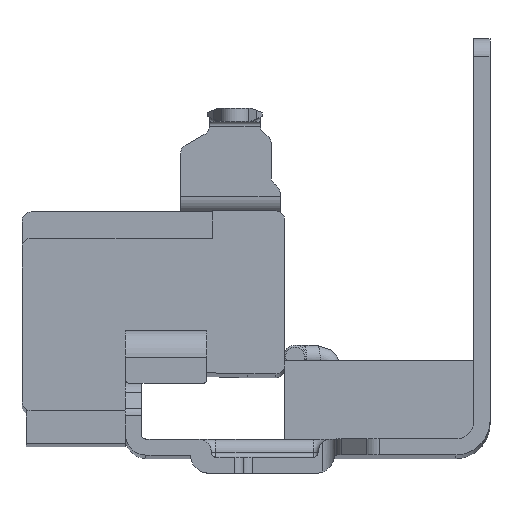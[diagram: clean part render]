
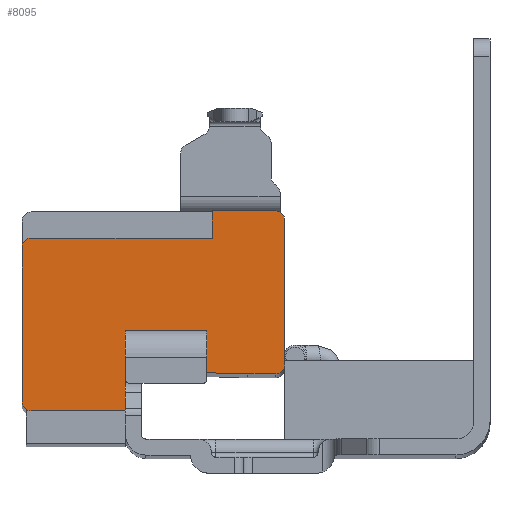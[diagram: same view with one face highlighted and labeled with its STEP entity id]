
A CAD part, top view. The second image highlights one B-rep face of the part: STEP entity #8095.
In plain terms, the highlighted planar face has unit normal (0, 0, 1).
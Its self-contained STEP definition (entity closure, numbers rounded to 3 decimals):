
#72 = VECTOR ( 'NONE', #6047, 1000. ) ;
#322 = ORIENTED_EDGE ( 'NONE', *, *, #4139, .F. ) ;
#343 = VECTOR ( 'NONE', #1663, 1000. ) ;
#417 = DIRECTION ( 'NONE',  ( 0., 0., -1. ) ) ;
#449 = EDGE_CURVE ( 'NONE', #8818, #9963, #9604, .T. ) ;
#459 = ORIENTED_EDGE ( 'NONE', *, *, #449, .T. ) ;
#493 = EDGE_CURVE ( 'NONE', #2171, #1219, #9324, .T. ) ;
#697 = LINE ( 'NONE', #4200, #9960 ) ;
#1143 = AXIS2_PLACEMENT_3D ( 'NONE', #9883, #4663, #10749 ) ;
#1203 = DIRECTION ( 'NONE',  ( -1., 0., 0. ) ) ;
#1219 = VERTEX_POINT ( 'NONE', #3538 ) ;
#1273 = CARTESIAN_POINT ( 'NONE',  ( -59.43, -14.951, -18.7 ) ) ;
#1330 = CARTESIAN_POINT ( 'NONE',  ( -59.43, -12.102, -18.7 ) ) ;
#1413 = CIRCLE ( 'NONE', #1143, 0.97 ) ;
#1463 = CARTESIAN_POINT ( 'NONE',  ( -41.412, -15.412, -18.7 ) ) ;
#1501 = ORIENTED_EDGE ( 'NONE', *, *, #5215, .F. ) ;
#1663 = DIRECTION ( 'NONE',  ( 0., -1., 0. ) ) ;
#1665 = EDGE_CURVE ( 'NONE', #5569, #6443, #5791, .T. ) ;
#1807 = PLANE ( 'NONE',  #8982 ) ;
#1852 = DIRECTION ( 'NONE',  ( 0., -1., 0. ) ) ;
#1927 = LINE ( 'NONE', #5752, #8306 ) ;
#1955 = CARTESIAN_POINT ( 'NONE',  ( -52.2, -12.102, -18.7 ) ) ;
#1985 = VERTEX_POINT ( 'NONE', #6669 ) ;
#2008 = ORIENTED_EDGE ( 'NONE', *, *, #2759, .T. ) ;
#2079 = VECTOR ( 'NONE', #3956, 1000. ) ;
#2093 = EDGE_CURVE ( 'NONE', #10703, #7217, #2333, .T. ) ;
#2128 = CARTESIAN_POINT ( 'NONE',  ( -44.6, 2.748, -18.7 ) ) ;
#2171 = VERTEX_POINT ( 'NONE', #1955 ) ;
#2251 = VERTEX_POINT ( 'NONE', #2990 ) ;
#2333 = LINE ( 'NONE', #5307, #11282 ) ;
#2341 = DIRECTION ( 'NONE',  ( -1., 0.026, 0. ) ) ;
#2350 = VECTOR ( 'NONE', #5396, 1000. ) ;
#2431 = ORIENTED_EDGE ( 'NONE', *, *, #493, .F. ) ;
#2523 = CIRCLE ( 'NONE', #5523, 1. ) ;
#2604 = EDGE_CURVE ( 'NONE', #7217, #9635, #5332, .T. ) ;
#2678 = DIRECTION ( 'NONE',  ( -1., 0., 0. ) ) ;
#2680 = CARTESIAN_POINT ( 'NONE',  ( -43.6, 1.748, -18.7 ) ) ;
#2759 = EDGE_CURVE ( 'NONE', #2171, #8818, #1927, .T. ) ;
#2775 = LINE ( 'NONE', #4478, #4530 ) ;
#2942 = DIRECTION ( 'NONE',  ( 0., 0., -1. ) ) ;
#2990 = CARTESIAN_POINT ( 'NONE',  ( -61.2, -19.352, -18.7 ) ) ;
#3094 = CARTESIAN_POINT ( 'NONE',  ( -72.63, -13.752, -18.7 ) ) ;
#3148 = LINE ( 'NONE', #1463, #6673 ) ;
#3293 = CARTESIAN_POINT ( 'NONE',  ( -51.6, -0.252, -18.7 ) ) ;
#3468 = AXIS2_PLACEMENT_3D ( 'NONE', #8131, #2942, #8996 ) ;
#3530 = EDGE_CURVE ( 'NONE', #6919, #9963, #3148, .T. ) ;
#3538 = CARTESIAN_POINT ( 'NONE',  ( -52.2, -10.442, -18.7 ) ) ;
#3595 = EDGE_CURVE ( 'NONE', #7287, #4161, #6411, .T. ) ;
#3644 = CARTESIAN_POINT ( 'NONE',  ( -51.6, -0.252, -18.7 ) ) ;
#3686 = DIRECTION ( 'NONE',  ( 0., 0., -1. ) ) ;
#3918 = ORIENTED_EDGE ( 'NONE', *, *, #6598, .F. ) ;
#3956 = DIRECTION ( 'NONE',  ( 0., 1., 0. ) ) ;
#3990 = EDGE_CURVE ( 'NONE', #7409, #10703, #2523, .T. ) ;
#4018 = LINE ( 'NONE', #6811, #4282 ) ;
#4086 = ORIENTED_EDGE ( 'NONE', *, *, #3530, .F. ) ;
#4092 = VECTOR ( 'NONE', #8471, 1000. ) ;
#4110 = LINE ( 'NONE', #7279, #10492 ) ;
#4139 = EDGE_CURVE ( 'NONE', #2251, #5569, #4018, .T. ) ;
#4161 = VERTEX_POINT ( 'NONE', #6850 ) ;
#4192 = DIRECTION ( 'NONE',  ( -1., 0., 0. ) ) ;
#4200 = CARTESIAN_POINT ( 'NONE',  ( -41.8, -0.252, -18.7 ) ) ;
#4222 = AXIS2_PLACEMENT_3D ( 'NONE', #8882, #3686, #9767 ) ;
#4282 = VECTOR ( 'NONE', #4192, 1000. ) ;
#4283 = FACE_OUTER_BOUND ( 'NONE', #7289, .T. ) ;
#4357 = ORIENTED_EDGE ( 'NONE', *, *, #5084, .T. ) ;
#4440 = ORIENTED_EDGE ( 'NONE', *, *, #6483, .F. ) ;
#4471 = ORIENTED_EDGE ( 'NONE', *, *, #2093, .F. ) ;
#4478 = CARTESIAN_POINT ( 'NONE',  ( -61.2, -1.252, -18.7 ) ) ;
#4530 = VECTOR ( 'NONE', #9690, 1000. ) ;
#4641 = LINE ( 'NONE', #9605, #2350 ) ;
#4663 = DIRECTION ( 'NONE',  ( 0., 0., -1. ) ) ;
#4871 = DIRECTION ( 'NONE',  ( -1., 0., 0. ) ) ;
#5084 = EDGE_CURVE ( 'NONE', #2251, #1985, #2775, .T. ) ;
#5215 = EDGE_CURVE ( 'NONE', #8121, #8282, #1413, .T. ) ;
#5244 = CARTESIAN_POINT ( 'NONE',  ( -72.63, -18.352, -18.7 ) ) ;
#5307 = CARTESIAN_POINT ( 'NONE',  ( -43.6, -6.222, -18.7 ) ) ;
#5324 = CARTESIAN_POINT ( 'NONE',  ( -43.6, -14.252, -18.7 ) ) ;
#5332 = CIRCLE ( 'NONE', #3468, 1. ) ;
#5396 = DIRECTION ( 'NONE',  ( 1., 0., 0. ) ) ;
#5523 = AXIS2_PLACEMENT_3D ( 'NONE', #5654, #417, #6530 ) ;
#5569 = VERTEX_POINT ( 'NONE', #9040 ) ;
#5654 = CARTESIAN_POINT ( 'NONE',  ( -44.6, 1.748, -18.7 ) ) ;
#5684 = ORIENTED_EDGE ( 'NONE', *, *, #1665, .F. ) ;
#5752 = CARTESIAN_POINT ( 'NONE',  ( -52.2, -12.102, -18.7 ) ) ;
#5791 = CIRCLE ( 'NONE', #4222, 1. ) ;
#6047 = DIRECTION ( 'NONE',  ( 0., 1., 0. ) ) ;
#6075 = VECTOR ( 'NONE', #9705, 1000. ) ;
#6155 = CARTESIAN_POINT ( 'NONE',  ( -71.63, -13.752, -18.7 ) ) ;
#6186 = CARTESIAN_POINT ( 'NONE',  ( -72.63, -1.222, -18.7 ) ) ;
#6199 = EDGE_CURVE ( 'NONE', #7287, #8282, #697, .T. ) ;
#6232 = CARTESIAN_POINT ( 'NONE',  ( -59.43, -10.442, -18.7 ) ) ;
#6411 = LINE ( 'NONE', #3293, #4092 ) ;
#6443 = VERTEX_POINT ( 'NONE', #5244 ) ;
#6483 = EDGE_CURVE ( 'NONE', #4161, #7409, #4641, .T. ) ;
#6530 = DIRECTION ( 'NONE',  ( -1., 0., 0. ) ) ;
#6598 = EDGE_CURVE ( 'NONE', #9635, #6919, #4110, .T. ) ;
#6669 = CARTESIAN_POINT ( 'NONE',  ( -61.2, -10.442, -18.7 ) ) ;
#6673 = VECTOR ( 'NONE', #2341, 1000. ) ;
#6811 = CARTESIAN_POINT ( 'NONE',  ( -41.05, -19.352, -18.7 ) ) ;
#6850 = CARTESIAN_POINT ( 'NONE',  ( -51.6, 2.748, -18.7 ) ) ;
#6919 = VERTEX_POINT ( 'NONE', #8995 ) ;
#7217 = VERTEX_POINT ( 'NONE', #5324 ) ;
#7279 = CARTESIAN_POINT ( 'NONE',  ( -41.05, -15.252, -18.7 ) ) ;
#7287 = VERTEX_POINT ( 'NONE', #3644 ) ;
#7289 = EDGE_LOOP ( 'NONE', ( #8944, #10786, #1501, #9622, #5684, #322, #4357, #7505, #2431, #2008, #459, #4086, #3918, #8127, #4471, #7604, #4440 ) ) ;
#7409 = VERTEX_POINT ( 'NONE', #2128 ) ;
#7505 = ORIENTED_EDGE ( 'NONE', *, *, #8137, .T. ) ;
#7604 = ORIENTED_EDGE ( 'NONE', *, *, #3990, .F. ) ;
#7763 = CARTESIAN_POINT ( 'NONE',  ( -52.2, -12.102, -18.7 ) ) ;
#7877 = DIRECTION ( 'NONE',  ( 0., 0., 1. ) ) ;
#8095 = ADVANCED_FACE ( 'NONE', ( #4283 ), #1807, .T. ) ;
#8121 = VERTEX_POINT ( 'NONE', #6186 ) ;
#8127 = ORIENTED_EDGE ( 'NONE', *, *, #2604, .F. ) ;
#8131 = CARTESIAN_POINT ( 'NONE',  ( -44.6, -14.252, -18.7 ) ) ;
#8137 = EDGE_CURVE ( 'NONE', #1985, #1219, #8367, .T. ) ;
#8212 = CARTESIAN_POINT ( 'NONE',  ( -71.66, -0.252, -18.7 ) ) ;
#8282 = VERTEX_POINT ( 'NONE', #8212 ) ;
#8306 = VECTOR ( 'NONE', #4871, 1000. ) ;
#8367 = LINE ( 'NONE', #6232, #6075 ) ;
#8471 = DIRECTION ( 'NONE',  ( 0., 1., 0. ) ) ;
#8818 = VERTEX_POINT ( 'NONE', #1330 ) ;
#8882 = CARTESIAN_POINT ( 'NONE',  ( -71.63, -18.352, -18.7 ) ) ;
#8944 = ORIENTED_EDGE ( 'NONE', *, *, #3595, .F. ) ;
#8982 = AXIS2_PLACEMENT_3D ( 'NONE', #6155, #7877, #2678 ) ;
#8995 = CARTESIAN_POINT ( 'NONE',  ( -47.67, -15.252, -18.7 ) ) ;
#8996 = DIRECTION ( 'NONE',  ( -1., 0., 0. ) ) ;
#9001 = LINE ( 'NONE', #3094, #2079 ) ;
#9040 = CARTESIAN_POINT ( 'NONE',  ( -71.63, -19.352, -18.7 ) ) ;
#9324 = LINE ( 'NONE', #7763, #72 ) ;
#9343 = CARTESIAN_POINT ( 'NONE',  ( -44.6, -15.252, -18.7 ) ) ;
#9604 = LINE ( 'NONE', #1273, #343 ) ;
#9605 = CARTESIAN_POINT ( 'NONE',  ( -49.4, 2.748, -18.7 ) ) ;
#9622 = ORIENTED_EDGE ( 'NONE', *, *, #11040, .F. ) ;
#9635 = VERTEX_POINT ( 'NONE', #9343 ) ;
#9690 = DIRECTION ( 'NONE',  ( 0., 1., 0. ) ) ;
#9705 = DIRECTION ( 'NONE',  ( 1., 0., 0. ) ) ;
#9767 = DIRECTION ( 'NONE',  ( -1., 0., 0. ) ) ;
#9832 = CARTESIAN_POINT ( 'NONE',  ( -59.43, -14.951, -18.7 ) ) ;
#9883 = CARTESIAN_POINT ( 'NONE',  ( -71.66, -1.222, -18.7 ) ) ;
#9960 = VECTOR ( 'NONE', #10299, 1000. ) ;
#9963 = VERTEX_POINT ( 'NONE', #9832 ) ;
#10299 = DIRECTION ( 'NONE',  ( -1., 0., 0. ) ) ;
#10492 = VECTOR ( 'NONE', #1203, 1000. ) ;
#10703 = VERTEX_POINT ( 'NONE', #2680 ) ;
#10749 = DIRECTION ( 'NONE',  ( -1., 0., 0. ) ) ;
#10786 = ORIENTED_EDGE ( 'NONE', *, *, #6199, .T. ) ;
#11040 = EDGE_CURVE ( 'NONE', #6443, #8121, #9001, .T. ) ;
#11282 = VECTOR ( 'NONE', #1852, 1000. ) ;
